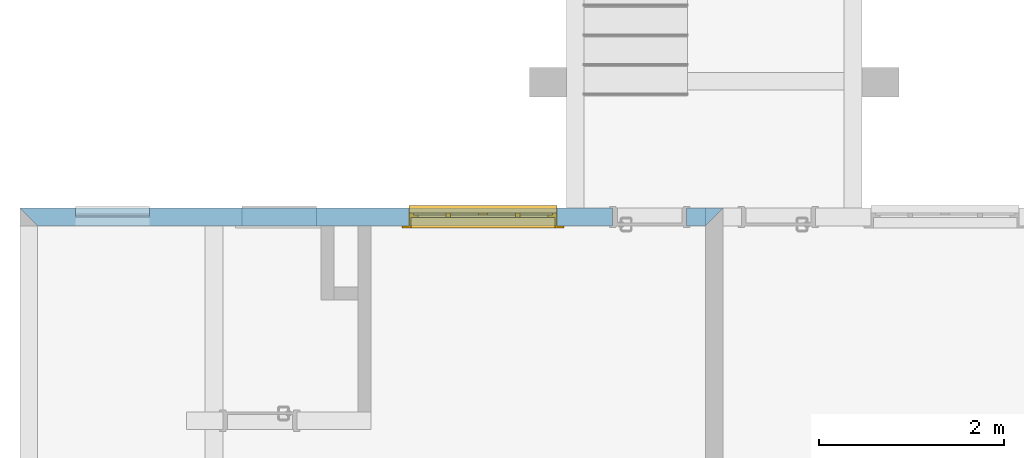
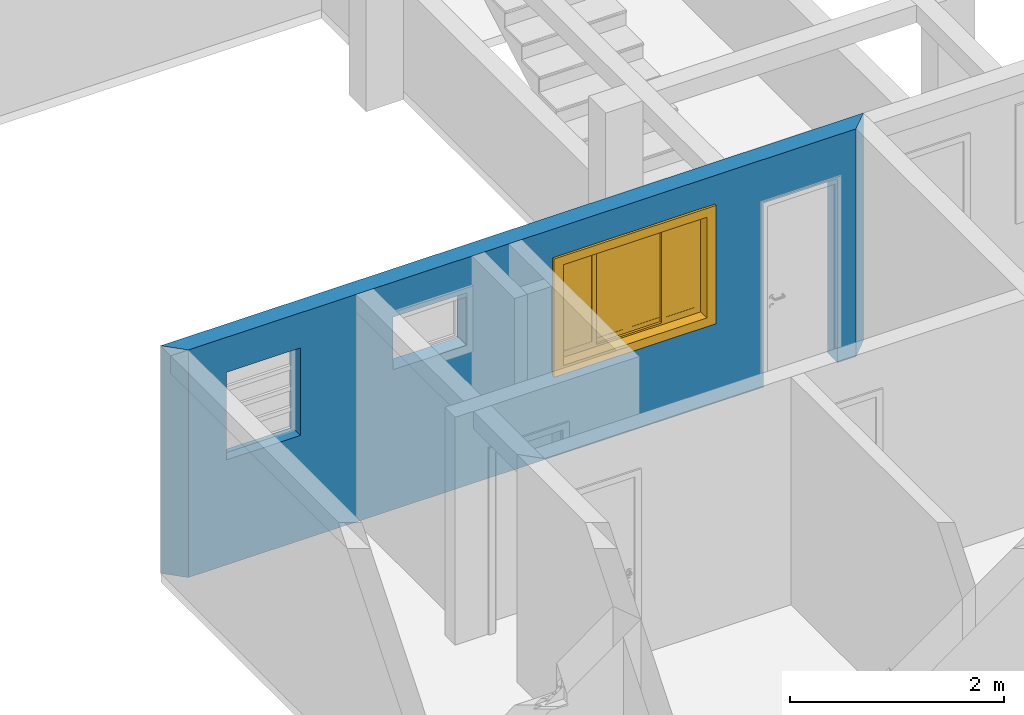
# One storey, part 12 of 47: 1 wall, 1 window, 4 openings.
"""IFC2X3 building model written with IfcOpenShell, lengths in millimetres."""

from ifc_helpers import new_model, entity, si_unit, converted_unit, derived_unit, money_unit, direction, frame, origin_with_axes, origin_2d_with_axis, place, context, subcontext, project, spatial, polyline, rectangle, outline, extrude, open_shell, faceted_brep, surface_model, source, transform, mapped, material, layer, layer_set, layer_usage, type_object, element, fill, save


model = new_model("IFC2X3")

# Units and contexts
model_context = context("Model", 3, precision=0.01, world=origin_with_axes(), true_north=direction((0.0, 1.0)))
body_context = subcontext(model_context, "Body", "Model", "MODEL_VIEW")
ifc_project = project(units=[si_unit("LENGTHUNIT", "METRE", prefix="MILLI"), si_unit("AREAUNIT", "SQUARE_METRE"), si_unit("VOLUMEUNIT", "CUBIC_METRE"), converted_unit("PLANEANGLEUNIT", "DEGREE", entity("IfcPlaneAngleMeasure", 0.0174532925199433), si_unit("PLANEANGLEUNIT", "RADIAN"), dimensions=[0, 0, 0, 0, 0, 0, 0]), money_unit("USD"), converted_unit("TIMEUNIT", "Year", entity("IfcTimeMeasure", 31557600.0), si_unit("TIMEUNIT", "SECOND"), dimensions=[0, 0, 1, 0, 0, 0, 0]), si_unit("MASSUNIT", "GRAM", prefix="KILO"), si_unit("THERMODYNAMICTEMPERATUREUNIT", "DEGREE_CELSIUS"), si_unit("LUMINOUSINTENSITYUNIT", "LUMEN"), si_unit("ENERGYUNIT", "JOULE", prefix="MEGA"), derived_unit("THERMALCONDUCTANCEUNIT", [(si_unit("POWERUNIT", "WATT"), 1), (si_unit("LENGTHUNIT", "METRE"), -1), (si_unit("THERMODYNAMICTEMPERATUREUNIT", "KELVIN"), -1)]), derived_unit("SPECIFICHEATCAPACITYUNIT", [(si_unit("ENERGYUNIT", "JOULE"), 1), (si_unit("MASSUNIT", "GRAM", prefix="KILO"), -1), (si_unit("THERMODYNAMICTEMPERATUREUNIT", "KELVIN"), -1)]), derived_unit("MASSDENSITYUNIT", [(si_unit("MASSUNIT", "GRAM", prefix="KILO"), 1), (si_unit("VOLUMEUNIT", "CUBIC_METRE"), -1)])], contexts=[model_context])

# Site, building, storey
site_placement = place(None, origin_with_axes())
site = spatial("IfcSite", under=ifc_project, at=site_placement, Name="Local", CompositionType="ELEMENT")
building_placement = place(site_placement, origin_with_axes())
building = spatial("IfcBuilding", under=site, at=building_placement, Name="Construção", CompositionType="ELEMENT")
storey_placement = place(building_placement, origin_with_axes())
storey = spatial("IfcBuildingStorey", under=building, at=storey_placement, Name="Pavimento Tipo", CompositionType="ELEMENT", Elevation=0.0)

# Wall, openings, window
ifc_material = material(Name="Concreto - Estrutural")
ifc_layer = layer(ifc_material, 190.0, ventilated="UNKNOWN")
ifc_layer_set = layer_set([ifc_layer], Name="Concreto - Estrutural 190")
ifc_layer_usage = layer_usage(ifc_layer_set, "AXIS2", "NEGATIVE", 190.0)
wall_type = type_object("IfcWallType", Name="Concreto - Estrutural 190", PredefinedType="NOTDEFINED")
wall_placement = place(storey_placement, frame((852.5669975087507, 5186.981417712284, 0.0), z_axis=(0.0, 0.0, 1.0), x_axis=(-1.0, 0.0, 0.0)))
wall = element("IfcWallStandardCase", 1, at=wall_placement, inside=storey, type_object=wall_type, material=ifc_layer_usage, Name="Apartamento 3 - Parede-003", context=body_context, shape_type="SweptSolid", body=[
    extrude(outline(polyline([(-190.0000000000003, 0.0), (7399.999999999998, 0.0), (7209.999999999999, 190.0000000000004), (0.0, 190.0000000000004), (-190.0000000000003, 0.0)])), origin_with_axes(), (0.0, 0.0, 1.0), 2600.0),
])
opening_1_placement = place(wall_placement, frame((2400.0, 0.0, 1000.0), z_axis=(0.0, 0.0, 1.0), x_axis=(1.0, 0.0, 0.0)))
opening_1 = element("IfcOpeningElement", 2, at=opening_1_placement, cuts=wall, Name="Apartamento 3 - J01", context=body_context, shape_type="SweptSolid", body=[
    extrude(rectangle(XDim=1600.0, YDim=1200.0, at=origin_2d_with_axis()), frame((0.0, 50.00000000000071, 600.0000000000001), z_axis=(0.0, 1.0, 0.0), x_axis=(1.0, 0.0, 0.0)), (0.0, 0.0, 1.0), 330.0),
    extrude(rectangle(XDim=1600.0, YDim=1200.0, at=origin_2d_with_axis()), frame((0.0, 50.00000000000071, 600.0000000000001), z_axis=(0.0, -1.0, 0.0), x_axis=(1.0, 0.0, 0.0)), (0.0, 0.0, 1.0), 240.0),
    extrude(rectangle(XDim=1750.0, YDim=1350.0, at=origin_2d_with_axis()), frame((0.0, 190.0000000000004, 599.9999999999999), z_axis=(0.0, 1.0, 0.0), x_axis=(1.0, 0.0, 0.0)), (0.0, 0.0, 1.0), 240.0),
])
opening_2_placement = place(wall_placement, frame((4600.0, 0.0, 1600.0), z_axis=(0.0, 0.0, 1.0), x_axis=(1.0, 0.0, 0.0)))
element("IfcOpeningElement", 3, at=opening_2_placement, cuts=wall, Name="Apartamento 3 - J02", context=body_context, shape_type="SweptSolid", body=[
    extrude(rectangle(XDim=799.9999999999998, YDim=599.9999999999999, at=origin_2d_with_axis()), frame((0.0, 190.0000000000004, 299.9999999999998), z_axis=(0.0, -1.0, 0.0), x_axis=(-1.0, 0.0, 0.0)), (0.0, 0.0, 1.0), 570.0000000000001),
    extrude(rectangle(XDim=799.9999999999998, YDim=30.00000000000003, at=origin_2d_with_axis()), frame((0.0, 35.00000000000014, -15.00000000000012), z_axis=(0.0, 1.0, 0.0), x_axis=(-1.0, 0.0, 0.0)), (0.0, 0.0, -1.0), 225.0),
    extrude(rectangle(XDim=949.9999999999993, YDim=750.0000000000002, at=origin_2d_with_axis()), frame((0.0, 190.0000000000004, 300.0000000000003), z_axis=(0.0, -1.0, 0.0), x_axis=(-1.0, 0.0, 0.0)), (0.0, 0.0, -1.0), 190.0),
])
opening_3_placement = place(wall_placement, frame((6399.999999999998, 0.0, 1200.0), z_axis=(0.0, 0.0, 1.0), x_axis=(1.0, 0.0, 0.0)))
element("IfcOpeningElement", 4, at=opening_3_placement, cuts=wall, Name="Apartamento 3 - J03", context=body_context, shape_type="SweptSolid", body=[
    extrude(rectangle(XDim=800.0000000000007, YDim=999.9999999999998, at=origin_2d_with_axis()), frame((0.0, 50.00000000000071, 500.0), z_axis=(0.0, -1.0, 0.0), x_axis=(-1.0, 0.0, 0.0)), (0.0, 0.0, -1.0), 330.0),
    extrude(rectangle(XDim=800.0000000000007, YDim=999.9999999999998, at=origin_2d_with_axis()), frame((0.0, 50.00000000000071, 500.0), z_axis=(0.0, 1.0, 0.0), x_axis=(-1.0, 0.0, 0.0)), (0.0, 0.0, -1.0), 240.0),
    extrude(rectangle(XDim=800.0000000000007, YDim=30.00000000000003, at=origin_2d_with_axis()), frame((0.0, 85.00000000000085, -15.00000000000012), z_axis=(0.0, 1.0, 0.0), x_axis=(-1.0, 0.0, 0.0)), (0.0, 0.0, -1.0), 225.0),
])
opening_4_placement = place(wall_placement, frame((600.0000000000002, 0.0, 0.0), z_axis=(0.0, 0.0, 1.0), x_axis=(1.0, 0.0, 0.0)))
element("IfcOpeningElement", 5, at=opening_4_placement, cuts=wall, Name="Apartamento 3 - P01", context=body_context, shape_type="SweptSolid", body=[
    extrude(rectangle(XDim=800.0, YDim=2100.0, at=origin_2d_with_axis()), frame((0.0, 190.0000000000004, 1050.0), z_axis=(0.0, 1.0, 0.0), x_axis=(-1.0, 0.0, 0.0)), (0.0, 0.0, -1.0), 570.0000000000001),
    extrude(rectangle(XDim=870.0000000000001, YDim=2135.0, at=origin_2d_with_axis()), frame((0.0, 190.0000000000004, 1067.5), z_axis=(0.0, 1.0, 0.0), x_axis=(-1.0, 0.0, 0.0)), (0.0, 0.0, 1.0), 190.0),
    extrude(rectangle(XDim=870.0000000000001, YDim=2135.0, at=origin_2d_with_axis()), frame((0.0, 0.0, 1067.5), z_axis=(0.0, -1.0, 0.0), x_axis=(-1.0, 0.0, 0.0)), (0.0, 0.0, 1.0), 190.0),
])
window_style = type_object("IfcWindowStyle", Name="Janela de Correr 4-Folhas 27", ConstructionType="NOTDEFINED", OperationType="USERDEFINED", ParameterTakesPrecedence=False, Sizeable=False)
shared_shape = source(origin_with_axes(), body_context, "Body", "SurfaceModel", [
    faceted_brep([(800.0, 0.0, 5.0), (800.0, 50.0, 5.000000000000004), (800.0, 50.0, 27.37961103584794), (800.0, 0.0, 30.0), (-800.0, 0.0, 5.0), (-800.0, 50.0, 5.000000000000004), (-800.0, 80.0, 5.000000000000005), (800.0, 80.0, 5.000000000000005), (800.0, 80.0, 25.8073776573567), (-800.0, 80.0, 25.8073776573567), (-800.0, 50.0, 27.37961103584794), (-800.0, 0.0, 30.0)], [[[0, 1, 2, 3]], [[0, 4, 5, 6, 7, 1]], [[1, 7, 8, 2]], [[3, 2, 8, 9, 10, 11]], [[4, 0, 3, 11]], [[5, 4, 11, 10]], [[6, 5, 10, 9]], [[7, 6, 9, 8]]]),
    faceted_brep([(800.0, 0.0, 0.0), (800.0, 50.0, 0.0), (800.0, 50.0, 5.0), (800.0, 0.0, 5.0), (-800.0, 0.0, 0.0), (-800.0, 50.0, 0.0), (-800.0, 50.0, 5.0), (-800.0, 0.0, 5.0)], [[[0, 1, 2, 3]], [[0, 4, 5, 1]], [[1, 5, 6, 2]], [[3, 2, 6, 7]], [[4, 0, 3, 7]], [[5, 4, 7, 6]]]),
    faceted_brep([(800.0, -50.0, 0.0), (800.0, -140.0, 0.0), (-800.0, -140.0, 0.0), (-800.0, -50.0, 0.0), (800.0, -50.00000000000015, 1200.0), (800.0, -140.0000000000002, 1200.0), (-800.0, -140.0000000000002, 1200.0), (775.0, -140.0, 24.99999999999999), (-775.0, -140.0, 24.99999999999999), (-775.0, -140.0000000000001, 1175.0), (775.0, -140.0000000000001, 1175.0), (-800.0, -50.00000000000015, 1200.0), (775.0, -50.0, 24.99999999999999), (775.0, -50.00000000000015, 1175.0), (-775.0, -50.00000000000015, 1175.0), (-775.0, -50.0, 24.99999999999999)], [[[0, 1, 2, 3]], [[4, 5, 1, 0]], [[1, 5, 6, 2], [7, 8, 9, 10]], [[3, 2, 6, 11]], [[0, 3, 11, 4], [12, 13, 14, 15]], [[11, 6, 5, 4]], [[15, 8, 7, 12]], [[14, 9, 8, 15]], [[13, 10, 9, 14]], [[12, 7, 10, 13]]]),
    faceted_brep([(875.0, -165.0, -75.00000000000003), (775.0, -165.0, 24.99999999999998), (775.0, -140.0, 24.99999999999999), (875.0, -140.0, -75.00000000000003), (875.0, -165.0000000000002, 1275.0), (775.0, -165.0000000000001, 1175.0), (775.0, -140.0000000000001, 1175.0), (875.0, -140.0000000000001, 1275.0)], [[[0, 1, 2, 3]], [[0, 4, 5, 1]], [[1, 5, 6, 2]], [[3, 2, 6, 7]], [[4, 0, 3, 7]], [[5, 4, 7, 6]]]),
    faceted_brep([(-875.0, -165.0000000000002, 1275.0), (-775.0, -165.0000000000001, 1175.0), (-775.0, -140.0000000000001, 1175.0), (-875.0, -140.0000000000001, 1275.0), (-875.0, -165.0, -75.00000000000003), (-775.0, -165.0, 24.99999999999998), (-775.0, -140.0, 24.99999999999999), (-875.0, -140.0, -75.00000000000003)], [[[0, 1, 2, 3]], [[0, 4, 5, 1]], [[1, 5, 6, 2]], [[3, 2, 6, 7]], [[4, 0, 3, 7]], [[5, 4, 7, 6]]]),
    faceted_brep([(-875.0, -165.0, -75.00000000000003), (-775.0, -165.0, 24.99999999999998), (-775.0, -140.0, 24.99999999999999), (-875.0, -140.0, -75.00000000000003), (875.0, -165.0, -75.00000000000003), (775.0, -165.0, 24.99999999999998), (775.0, -140.0, 24.99999999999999), (875.0, -140.0, -75.00000000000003)], [[[0, 1, 2, 3]], [[0, 4, 5, 1]], [[1, 5, 6, 2]], [[3, 2, 6, 7]], [[4, 0, 3, 7]], [[5, 4, 7, 6]]]),
    faceted_brep([(875.0, -165.0000000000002, 1275.0), (775.0, -165.0000000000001, 1175.0), (775.0, -140.0000000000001, 1175.0), (875.0, -140.0000000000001, 1275.0), (-875.0, -165.0000000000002, 1275.0), (-775.0, -165.0000000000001, 1175.0), (-775.0, -140.0000000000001, 1175.0), (-875.0, -140.0000000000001, 1275.0)], [[[0, 1, 2, 3]], [[0, 4, 5, 1]], [[1, 5, 6, 2]], [[3, 2, 6, 7]], [[4, 0, 3, 7]], [[5, 4, 7, 6]]]),
    faceted_brep([(753.0, -50.00000000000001, 47.0), (753.0, -50.00000000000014, 1153.0), (753.0, 0.0, 1153.0), (753.0, 0.0, 47.00000000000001), (800.0, -50.00000000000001, 47.0), (800.0, -50.00000000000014, 1153.0), (800.0, 0.0, 1153.0), (800.0, 0.0, 47.00000000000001)], [[[0, 1, 2, 3]], [[0, 4, 5, 1]], [[1, 5, 6, 2]], [[3, 2, 6, 7]], [[4, 0, 3, 7]], [[5, 4, 7, 6]]]),
    faceted_brep([(-800.0, -50.00000000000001, 47.0), (-800.0, -50.00000000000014, 1153.0), (-800.0, 0.0, 1153.0), (-800.0, 0.0, 47.00000000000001), (-753.0, -50.00000000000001, 47.0), (-753.0, -50.00000000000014, 1153.0), (-753.0, 0.0, 1153.0), (-753.0, 0.0, 47.00000000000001)], [[[0, 1, 2, 3]], [[0, 4, 5, 1]], [[1, 5, 6, 2]], [[3, 2, 6, 7]], [[4, 0, 3, 7]], [[5, 4, 7, 6]]]),
    faceted_brep([(-800.0, -50.00000000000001, 47.0), (-753.0, -50.00000000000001, 47.0), (-753.0, 0.0, 47.00000000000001), (-800.0, 0.0, 47.00000000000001), (-800.0, -50.0, 0.0), (800.0, -50.0, 0.0), (800.0, -50.00000000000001, 47.0), (753.0, -50.00000000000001, 47.0), (753.0, 0.0, 47.00000000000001), (800.0, 0.0, 47.00000000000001), (800.0, 0.0, 0.0), (-800.0, 0.0, 0.0)], [[[0, 1, 2, 3]], [[0, 4, 5, 6, 7, 1]], [[1, 7, 8, 2]], [[3, 2, 8, 9, 10, 11]], [[4, 0, 3, 11]], [[5, 4, 11, 10]], [[6, 5, 10, 9]], [[7, 6, 9, 8]]]),
    faceted_brep([(-800.0, -50.00000000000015, 1200.0), (800.0, -50.00000000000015, 1200.0), (800.0, 0.0, 1200.0), (-800.0, 0.0, 1200.0), (-800.0, -50.00000000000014, 1153.0), (-753.0, -50.00000000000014, 1153.0), (-376.5000000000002, -50.00000000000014, 1153.0), (0.0, -50.00000000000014, 1153.0), (376.4999999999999, -50.00000000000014, 1153.0), (753.0, -50.00000000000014, 1153.0), (800.0, -50.00000000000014, 1153.0), (800.0, 0.0, 1153.0), (753.0, 0.0, 1153.0), (376.4999999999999, 0.0, 1153.0), (0.0, 0.0, 1153.0), (-376.5000000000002, 0.0, 1153.0), (-753.0, 0.0, 1153.0), (-800.0, 0.0, 1153.0)], [[[0, 1, 2, 3]], [[0, 4, 5, 6, 7, 8, 9, 10, 1]], [[1, 10, 11, 2]], [[3, 2, 11, 12, 13, 14, 15, 16, 17]], [[4, 0, 3, 17]], [[5, 4, 17, 16]], [[6, 5, 16, 15]], [[7, 6, 15, 14]], [[8, 7, 14, 13]], [[9, 8, 13, 12]], [[10, 9, 12, 11]]]),
    faceted_brep([(703.0, -50.00000000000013, 1103.0), (752.9999999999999, -50.00000000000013, 1103.0), (752.9999999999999, -25.00000000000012, 1103.0), (703.0, -25.00000000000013, 1103.0), (703.0, -50.00000000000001, 97.0), (752.9999999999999, -50.0, 97.0), (752.9999999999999, -25.0, 97.0), (703.0, -25.0, 97.0)], [[[0, 1, 2, 3]], [[0, 4, 5, 1]], [[1, 5, 6, 2]], [[3, 2, 6, 7]], [[4, 0, 3, 7]], [[5, 4, 7, 6]]]),
    faceted_brep([(401.4999999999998, -50.00000000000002, 97.0), (351.4999999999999, -50.00000000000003, 97.0), (351.4999999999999, -25.00000000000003, 97.0), (401.4999999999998, -25.00000000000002, 97.0), (401.4999999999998, -50.00000000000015, 1103.0), (351.4999999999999, -50.00000000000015, 1103.0), (351.4999999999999, -25.00000000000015, 1103.0), (401.4999999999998, -25.00000000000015, 1103.0)], [[[0, 1, 2, 3]], [[0, 4, 5, 1]], [[1, 5, 6, 2]], [[3, 2, 6, 7]], [[4, 0, 3, 7]], [[5, 4, 7, 6]]]),
    faceted_brep([(351.4999999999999, -50.00000000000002, 47.0), (351.4999999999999, -50.00000000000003, 97.0), (351.4999999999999, -25.00000000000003, 97.0), (351.4999999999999, -25.00000000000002, 47.0), (752.9999999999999, -49.99999999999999, 47.0), (752.9999999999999, -50.0, 97.0), (703.0, -50.00000000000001, 97.0), (401.4999999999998, -50.00000000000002, 97.0), (401.4999999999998, -25.00000000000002, 97.0), (703.0, -25.0, 97.0), (752.9999999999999, -25.0, 97.0), (752.9999999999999, -24.99999999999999, 47.0)], [[[0, 1, 2, 3]], [[0, 4, 5, 6, 7, 1]], [[1, 7, 8, 2]], [[3, 2, 8, 9, 10, 11]], [[4, 0, 3, 11]], [[5, 4, 11, 10]], [[6, 5, 10, 9]], [[7, 6, 9, 8]]]),
    faceted_brep([(752.9999999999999, -50.00000000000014, 1153.0), (752.9999999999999, -50.00000000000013, 1103.0), (752.9999999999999, -25.00000000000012, 1103.0), (752.9999999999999, -25.00000000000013, 1153.0), (351.4999999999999, -50.00000000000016, 1153.0), (351.4999999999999, -50.00000000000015, 1103.0), (401.4999999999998, -50.00000000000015, 1103.0), (703.0, -50.00000000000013, 1103.0), (703.0, -25.00000000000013, 1103.0), (401.4999999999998, -25.00000000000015, 1103.0), (351.4999999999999, -25.00000000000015, 1103.0), (351.4999999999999, -25.00000000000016, 1153.0)], [[[0, 1, 2, 3]], [[0, 4, 5, 6, 7, 1]], [[1, 7, 8, 2]], [[3, 2, 8, 9, 10, 11]], [[4, 0, 3, 11]], [[5, 4, 11, 10]], [[6, 5, 10, 9]], [[7, 6, 9, 8]]]),
    surface_model("IfcShellBasedSurfaceModel", [(703.0, -47.50000000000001, 97.0), (703.0, -47.50000000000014, 1103.0), (401.4999999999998, -47.50000000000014, 1103.0), (401.4999999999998, -47.50000000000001, 97.0)], [open_shell([[[0, 1, 2, 3]]])]),
    surface_model("IfcShellBasedSurfaceModel", [(703.0, -27.50000000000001, 97.0), (401.4999999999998, -27.50000000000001, 97.0), (401.4999999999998, -27.50000000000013, 1103.0), (703.0, -27.50000000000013, 1103.0)], [open_shell([[[0, 1, 2, 3]]])]),
    faceted_brep([(351.4999999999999, -25.00000000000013, 1103.0), (401.4999999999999, -25.00000000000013, 1103.0), (401.4999999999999, 0.0, 1103.0), (351.4999999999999, 0.0, 1103.0), (351.4999999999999, -25.0, 97.0), (401.4999999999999, -25.0, 97.0), (401.4999999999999, 0.0, 97.0), (351.4999999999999, 0.0, 97.0)], [[[0, 1, 2, 3]], [[0, 4, 5, 1]], [[1, 5, 6, 2]], [[3, 2, 6, 7]], [[4, 0, 3, 7]], [[5, 4, 7, 6]]]),
    faceted_brep([(49.99999999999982, -25.00000000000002, 97.0), (0.0, -25.00000000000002, 97.0), (0.0, 0.0, 97.0), (49.99999999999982, 0.0, 97.0), (49.99999999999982, -25.00000000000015, 1103.0), (0.0, -25.00000000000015, 1103.0), (0.0, 0.0, 1103.0), (49.99999999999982, 0.0, 1103.0)], [[[0, 1, 2, 3]], [[0, 4, 5, 1]], [[1, 5, 6, 2]], [[3, 2, 6, 7]], [[4, 0, 3, 7]], [[5, 4, 7, 6]]]),
    faceted_brep([(0.0, -25.00000000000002, 47.0), (0.0, -25.00000000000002, 97.0), (0.0, 0.0, 97.0), (0.0, 0.0, 47.0), (401.4999999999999, -24.99999999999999, 47.0), (401.4999999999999, -25.0, 97.0), (351.4999999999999, -25.0, 97.0), (49.99999999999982, -25.00000000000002, 97.0), (49.99999999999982, 0.0, 97.0), (351.4999999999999, 0.0, 97.0), (401.4999999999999, 0.0, 97.0), (401.4999999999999, 0.0, 47.0)], [[[0, 1, 2, 3]], [[0, 4, 5, 6, 7, 1]], [[1, 7, 8, 2]], [[3, 2, 8, 9, 10, 11]], [[4, 0, 3, 11]], [[5, 4, 11, 10]], [[6, 5, 10, 9]], [[7, 6, 9, 8]]]),
    faceted_brep([(401.4999999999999, -25.00000000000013, 1153.0), (401.4999999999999, -25.00000000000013, 1103.0), (401.4999999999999, 0.0, 1103.0), (401.4999999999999, 0.0, 1153.0), (0.0, -25.00000000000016, 1153.0), (0.0, -25.00000000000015, 1103.0), (49.99999999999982, -25.00000000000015, 1103.0), (351.4999999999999, -25.00000000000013, 1103.0), (351.4999999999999, 0.0, 1103.0), (49.99999999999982, 0.0, 1103.0), (0.0, 0.0, 1103.0), (0.0, 0.0, 1153.0)], [[[0, 1, 2, 3]], [[0, 4, 5, 6, 7, 1]], [[1, 7, 8, 2]], [[3, 2, 8, 9, 10, 11]], [[4, 0, 3, 11]], [[5, 4, 11, 10]], [[6, 5, 10, 9]], [[7, 6, 9, 8]]]),
    surface_model("IfcShellBasedSurfaceModel", [(351.4999999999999, -22.50000000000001, 97.0), (351.4999999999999, -22.50000000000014, 1103.0), (49.99999999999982, -22.50000000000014, 1103.0), (49.99999999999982, -22.50000000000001, 97.0)], [open_shell([[[0, 1, 2, 3]]])]),
    surface_model("IfcShellBasedSurfaceModel", [(351.4999999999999, -2.500000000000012, 97.0), (49.99999999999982, -2.500000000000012, 97.0), (49.99999999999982, -2.500000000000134, 1103.0), (351.4999999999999, -2.500000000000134, 1103.0)], [open_shell([[[0, 1, 2, 3]]])]),
    faceted_brep([(-50.00000000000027, -25.00000000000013, 1103.0), (0.0, -25.00000000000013, 1103.0), (0.0, 0.0, 1103.0), (-50.00000000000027, 0.0, 1103.0), (-50.00000000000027, -25.0, 97.0), (0.0, -25.0, 97.0), (0.0, 0.0, 97.0), (-50.00000000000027, 0.0, 97.0)], [[[0, 1, 2, 3]], [[0, 4, 5, 1]], [[1, 5, 6, 2]], [[3, 2, 6, 7]], [[4, 0, 3, 7]], [[5, 4, 7, 6]]]),
    faceted_brep([(-351.5000000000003, -25.00000000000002, 97.0), (-401.5000000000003, -25.00000000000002, 97.0), (-401.5000000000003, 0.0, 97.0), (-351.5000000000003, 0.0, 97.0), (-351.5000000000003, -25.00000000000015, 1103.0), (-401.5000000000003, -25.00000000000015, 1103.0), (-401.5000000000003, 0.0, 1103.0), (-351.5000000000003, 0.0, 1103.0)], [[[0, 1, 2, 3]], [[0, 4, 5, 1]], [[1, 5, 6, 2]], [[3, 2, 6, 7]], [[4, 0, 3, 7]], [[5, 4, 7, 6]]]),
    faceted_brep([(-401.5000000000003, -25.00000000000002, 47.0), (-401.5000000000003, -25.00000000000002, 97.0), (-401.5000000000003, 0.0, 97.0), (-401.5000000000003, 0.0, 47.0), (0.0, -24.99999999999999, 47.0), (0.0, -25.0, 97.0), (-50.00000000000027, -25.0, 97.0), (-351.5000000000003, -25.00000000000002, 97.0), (-351.5000000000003, 0.0, 97.0), (-50.00000000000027, 0.0, 97.0), (0.0, 0.0, 97.0), (0.0, 0.0, 47.0)], [[[0, 1, 2, 3]], [[0, 4, 5, 6, 7, 1]], [[1, 7, 8, 2]], [[3, 2, 8, 9, 10, 11]], [[4, 0, 3, 11]], [[5, 4, 11, 10]], [[6, 5, 10, 9]], [[7, 6, 9, 8]]]),
    faceted_brep([(0.0, -25.00000000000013, 1153.0), (0.0, -25.00000000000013, 1103.0), (0.0, 0.0, 1103.0), (0.0, 0.0, 1153.0), (-401.5000000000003, -25.00000000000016, 1153.0), (-401.5000000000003, -25.00000000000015, 1103.0), (-351.5000000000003, -25.00000000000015, 1103.0), (-50.00000000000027, -25.00000000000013, 1103.0), (-50.00000000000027, 0.0, 1103.0), (-351.5000000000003, 0.0, 1103.0), (-401.5000000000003, 0.0, 1103.0), (-401.5000000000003, 0.0, 1153.0)], [[[0, 1, 2, 3]], [[0, 4, 5, 6, 7, 1]], [[1, 7, 8, 2]], [[3, 2, 8, 9, 10, 11]], [[4, 0, 3, 11]], [[5, 4, 11, 10]], [[6, 5, 10, 9]], [[7, 6, 9, 8]]]),
    surface_model("IfcShellBasedSurfaceModel", [(-50.00000000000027, -22.50000000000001, 97.0), (-50.00000000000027, -22.50000000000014, 1103.0), (-351.5000000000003, -22.50000000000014, 1103.0), (-351.5000000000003, -22.50000000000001, 97.0)], [open_shell([[[0, 1, 2, 3]]])]),
    surface_model("IfcShellBasedSurfaceModel", [(-50.00000000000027, -2.500000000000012, 97.0), (-351.5000000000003, -2.500000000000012, 97.0), (-351.5000000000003, -2.500000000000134, 1103.0), (-50.00000000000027, -2.500000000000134, 1103.0)], [open_shell([[[0, 1, 2, 3]]])]),
    faceted_brep([(-401.5000000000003, -50.00000000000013, 1103.0), (-351.5000000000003, -50.00000000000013, 1103.0), (-351.5000000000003, -25.00000000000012, 1103.0), (-401.5000000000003, -25.00000000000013, 1103.0), (-401.5000000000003, -50.00000000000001, 97.0), (-351.5000000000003, -50.0, 97.0), (-351.5000000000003, -25.0, 97.0), (-401.5000000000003, -25.0, 97.0)], [[[0, 1, 2, 3]], [[0, 4, 5, 1]], [[1, 5, 6, 2]], [[3, 2, 6, 7]], [[4, 0, 3, 7]], [[5, 4, 7, 6]]]),
    faceted_brep([(-703.0000000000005, -50.00000000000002, 97.0), (-753.0000000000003, -50.00000000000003, 97.0), (-753.0000000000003, -25.00000000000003, 97.0), (-703.0000000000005, -25.00000000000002, 97.0), (-703.0000000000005, -50.00000000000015, 1103.0), (-753.0000000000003, -50.00000000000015, 1103.0), (-753.0000000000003, -25.00000000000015, 1103.0), (-703.0000000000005, -25.00000000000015, 1103.0)], [[[0, 1, 2, 3]], [[0, 4, 5, 1]], [[1, 5, 6, 2]], [[3, 2, 6, 7]], [[4, 0, 3, 7]], [[5, 4, 7, 6]]]),
    faceted_brep([(-753.0000000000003, -50.00000000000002, 47.0), (-753.0000000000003, -50.00000000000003, 97.0), (-753.0000000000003, -25.00000000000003, 97.0), (-753.0000000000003, -25.00000000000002, 47.0), (-351.5000000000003, -49.99999999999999, 47.0), (-351.5000000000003, -50.0, 97.0), (-401.5000000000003, -50.00000000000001, 97.0), (-703.0000000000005, -50.00000000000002, 97.0), (-703.0000000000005, -25.00000000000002, 97.0), (-401.5000000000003, -25.0, 97.0), (-351.5000000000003, -25.0, 97.0), (-351.5000000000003, -24.99999999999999, 47.0)], [[[0, 1, 2, 3]], [[0, 4, 5, 6, 7, 1]], [[1, 7, 8, 2]], [[3, 2, 8, 9, 10, 11]], [[4, 0, 3, 11]], [[5, 4, 11, 10]], [[6, 5, 10, 9]], [[7, 6, 9, 8]]]),
    faceted_brep([(-351.5000000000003, -50.00000000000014, 1153.0), (-351.5000000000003, -50.00000000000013, 1103.0), (-351.5000000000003, -25.00000000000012, 1103.0), (-351.5000000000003, -25.00000000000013, 1153.0), (-753.0000000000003, -50.00000000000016, 1153.0), (-753.0000000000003, -50.00000000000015, 1103.0), (-703.0000000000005, -50.00000000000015, 1103.0), (-401.5000000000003, -50.00000000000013, 1103.0), (-401.5000000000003, -25.00000000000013, 1103.0), (-703.0000000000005, -25.00000000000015, 1103.0), (-753.0000000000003, -25.00000000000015, 1103.0), (-753.0000000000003, -25.00000000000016, 1153.0)], [[[0, 1, 2, 3]], [[0, 4, 5, 6, 7, 1]], [[1, 7, 8, 2]], [[3, 2, 8, 9, 10, 11]], [[4, 0, 3, 11]], [[5, 4, 11, 10]], [[6, 5, 10, 9]], [[7, 6, 9, 8]]]),
    surface_model("IfcShellBasedSurfaceModel", [(-401.5000000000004, -47.50000000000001, 97.0), (-401.5000000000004, -47.50000000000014, 1103.0), (-703.0000000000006, -47.50000000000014, 1103.0), (-703.0000000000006, -47.50000000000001, 97.0)], [open_shell([[[0, 1, 2, 3]]])]),
    surface_model("IfcShellBasedSurfaceModel", [(-401.5000000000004, -27.50000000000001, 97.0), (-703.0000000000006, -27.50000000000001, 97.0), (-703.0000000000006, -27.50000000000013, 1103.0), (-401.5000000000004, -27.50000000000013, 1103.0)], [open_shell([[[0, 1, 2, 3]]])]),
])
window_placement = place(opening_1_placement, frame((799.9999999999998, 0.0, 0.0), z_axis=(0.0, 0.0, 1.0), x_axis=(-1.0, 0.0, 0.0)))
window = element("IfcWindow", 6, at=window_placement, inside=storey, type_object=window_style, Name="Apartamento 3 - J01", ObjectType="WINDOW", OverallHeight=1200.0, OverallWidth=1600.0, context=body_context, shape_type="MappedRepresentation", body=[
    mapped(shared_shape, transform((799.9999999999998, -49.99999999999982, 0.0))),
])
fill(opening_1, window)

save(model, "model.ifc")
